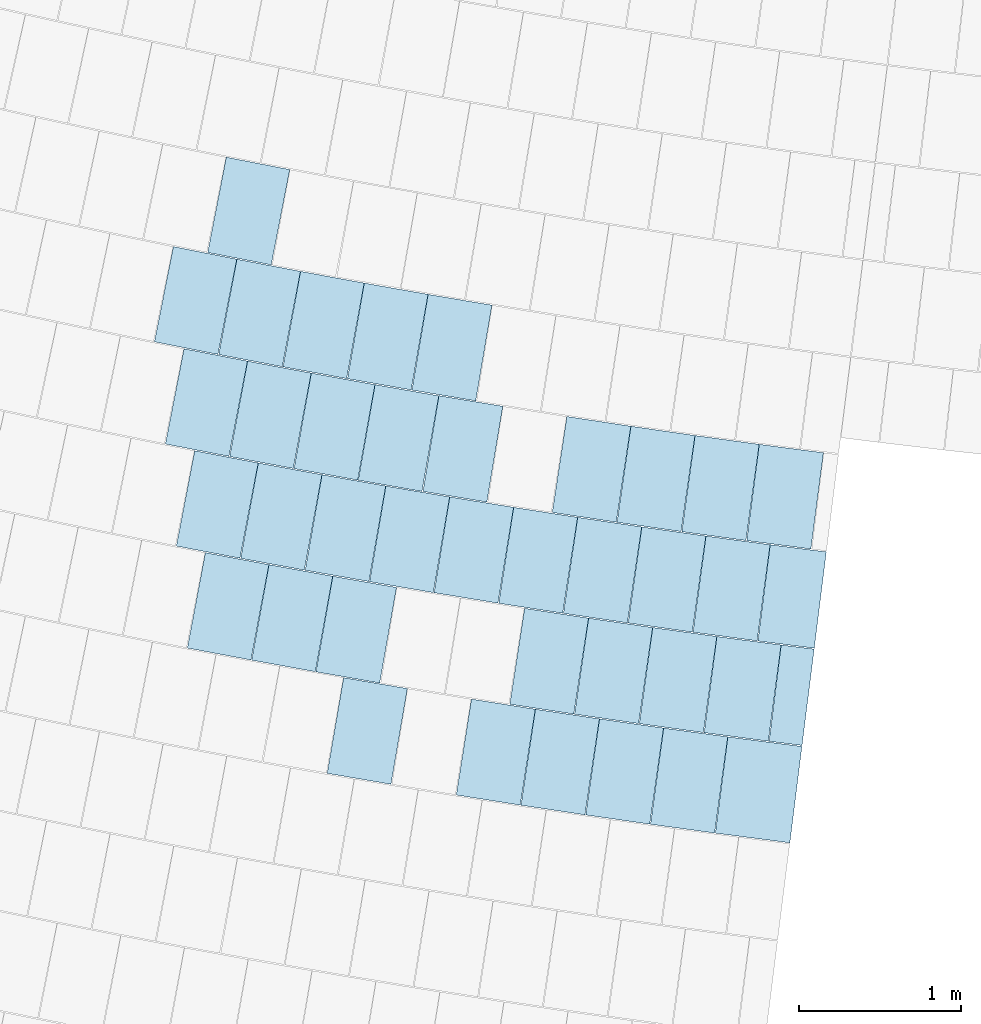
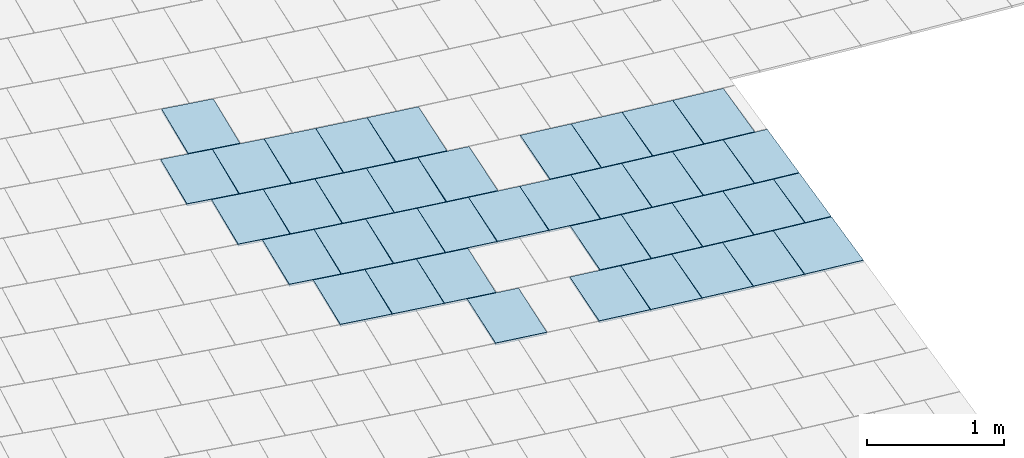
# One storey, part 35 of 438: 39 slabs.
"""IFC2X3 building model written with IfcOpenShell, lengths in millimetres."""

from ifc_helpers import new_model, entity, si_unit, converted_unit, derived_unit, direction, frame, frame_2d, origin, origin_2d_with_axis, place, context, subcontext, project, spatial, polyline, rectangle, outline, extrude, material, layer, layer_set, layer_usage, type_object, element, save


model = new_model("IFC2X3")

# Units and contexts
model_context = context("Model", 3, precision=0.01, world=origin(), true_north=direction((6.123031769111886e-17, 1.0)))
body_context = subcontext(model_context, "Body", "Model", "MODEL_VIEW")
ifc_project = project(units=[si_unit("LENGTHUNIT", "METRE", prefix="MILLI"), si_unit("AREAUNIT", "SQUARE_METRE"), si_unit("VOLUMEUNIT", "CUBIC_METRE"), converted_unit("PLANEANGLEUNIT", "DEGREE", entity("IfcRatioMeasure", 0.017453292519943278), si_unit("PLANEANGLEUNIT", "RADIAN"), dimensions=[0, 0, 0, 0, 0, 0, 0]), si_unit("MASSUNIT", "GRAM", prefix="KILO"), derived_unit("MASSDENSITYUNIT", [(si_unit("MASSUNIT", "GRAM", prefix="KILO"), 1), (si_unit("LENGTHUNIT", "METRE"), -3)]), derived_unit("MOMENTOFINERTIAUNIT", [(si_unit("LENGTHUNIT", "METRE"), 4)]), si_unit("TIMEUNIT", "SECOND"), si_unit("FREQUENCYUNIT", "HERTZ"), si_unit("THERMODYNAMICTEMPERATUREUNIT", "DEGREE_CELSIUS"), derived_unit("THERMALTRANSMITTANCEUNIT", [(si_unit("MASSUNIT", "GRAM", prefix="KILO"), 1), (si_unit("THERMODYNAMICTEMPERATUREUNIT", "KELVIN"), -1), (si_unit("TIMEUNIT", "SECOND"), -3)]), derived_unit("THERMALCONDUCTANCEUNIT", [(si_unit("MASSUNIT", "GRAM", prefix="KILO"), 1), (si_unit("LENGTHUNIT", "METRE"), 1), (si_unit("THERMODYNAMICTEMPERATUREUNIT", "KELVIN"), -1), (si_unit("TIMEUNIT", "SECOND"), -3)]), derived_unit("VOLUMETRICFLOWRATEUNIT", [(si_unit("LENGTHUNIT", "METRE"), 3), (si_unit("TIMEUNIT", "SECOND"), -1)]), derived_unit("MASSFLOWRATEUNIT", [(si_unit("MASSUNIT", "GRAM", prefix="KILO"), 1), (si_unit("TIMEUNIT", "SECOND"), -1)]), derived_unit("ROTATIONALFREQUENCYUNIT", [(si_unit("TIMEUNIT", "SECOND"), -1)]), si_unit("ELECTRICCURRENTUNIT", "AMPERE"), si_unit("ELECTRICVOLTAGEUNIT", "VOLT"), si_unit("POWERUNIT", "WATT"), converted_unit("FORCEUNIT", "KIP", entity("IfcRatioMeasure", 2.088543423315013e-05), si_unit("FORCEUNIT", "NEWTON"), dimensions=[1, 1, -2, 0, 0, 0, 0]), si_unit("ILLUMINANCEUNIT", "LUX"), si_unit("LUMINOUSFLUXUNIT", "LUMEN"), si_unit("LUMINOUSINTENSITYUNIT", "CANDELA"), derived_unit("USERDEFINED", [(si_unit("MASSUNIT", "GRAM", prefix="KILO"), -1), (si_unit("LENGTHUNIT", "METRE"), -2), (si_unit("TIMEUNIT", "SECOND"), 3), (si_unit("LUMINOUSFLUXUNIT", "LUMEN"), 1)]), derived_unit("USERDEFINED", [(si_unit("MASSUNIT", "GRAM", prefix="KILO"), 1), (si_unit("LENGTHUNIT", "METRE"), 3), (si_unit("TIMEUNIT", "SECOND"), -3), (si_unit("ELECTRICCURRENTUNIT", "AMPERE"), -2)]), derived_unit("USERDEFINED", [(si_unit("LENGTHUNIT", "METRE"), 2), (si_unit("TIMEUNIT", "SECOND"), -2)]), derived_unit("SOUNDPOWERUNIT", [(si_unit("MASSUNIT", "GRAM", prefix="KILO"), 1), (si_unit("LENGTHUNIT", "METRE"), 2), (si_unit("TIMEUNIT", "SECOND"), -3)]), derived_unit("SOUNDPRESSUREUNIT", [(si_unit("MASSUNIT", "GRAM", prefix="KILO"), 1), (si_unit("LENGTHUNIT", "METRE"), -1), (si_unit("TIMEUNIT", "SECOND"), -2)]), derived_unit("LINEARVELOCITYUNIT", [(si_unit("LENGTHUNIT", "METRE"), 1), (si_unit("TIMEUNIT", "SECOND"), -1)]), si_unit("PRESSUREUNIT", "PASCAL"), derived_unit("USERDEFINED", [(si_unit("LENGTHUNIT", "METRE"), -2), (si_unit("MASSUNIT", "GRAM", prefix="KILO"), 1), (si_unit("TIMEUNIT", "SECOND"), -2)]), derived_unit("LINEARFORCEUNIT", [(si_unit("MASSUNIT", "GRAM", prefix="KILO"), 1), (si_unit("LENGTHUNIT", "METRE"), 1), (si_unit("TIMEUNIT", "SECOND"), -2), (si_unit("LENGTHUNIT", "METRE"), -1)]), derived_unit("PLANARFORCEUNIT", [(si_unit("MASSUNIT", "GRAM", prefix="KILO"), 1), (si_unit("LENGTHUNIT", "METRE"), 1), (si_unit("TIMEUNIT", "SECOND"), -2), (si_unit("LENGTHUNIT", "METRE"), -2)]), derived_unit("SPECIFICHEATCAPACITYUNIT", [(si_unit("LENGTHUNIT", "METRE"), 2), (si_unit("TIMEUNIT", "SECOND"), -2), (si_unit("THERMODYNAMICTEMPERATUREUNIT", "KELVIN"), -1)]), derived_unit("VAPORPERMEABILITYUNIT", [(si_unit("TIMEUNIT", "SECOND"), 1), (si_unit("LENGTHUNIT", "METRE"), -1)]), derived_unit("DYNAMICVISCOSITYUNIT", [(si_unit("MASSUNIT", "GRAM", prefix="KILO"), 1), (si_unit("LENGTHUNIT", "METRE"), -1), (si_unit("TIMEUNIT", "SECOND"), -1)]), derived_unit("THERMALEXPANSIONCOEFFICIENTUNIT", [(si_unit("THERMODYNAMICTEMPERATUREUNIT", "KELVIN"), -1)])], contexts=[model_context])

# Site, building, storey
site_placement = place(None, frame((0.0, 0.0, 0.0), z_axis=(0.0, 0.0, 1.0), x_axis=(0.8191520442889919, 0.5735764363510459, 0.0)))
site = spatial("IfcSite", under=ifc_project, at=site_placement, Name="Default", CompositionType="ELEMENT")
building_placement = place(site_placement, origin())
building = spatial("IfcBuilding", under=site, at=building_placement, CompositionType="ELEMENT")
storey_placement = place(building_placement, origin())
storey = spatial("IfcBuildingStorey", under=building, at=storey_placement, Name="PLAN", CompositionType="ELEMENT", Elevation=0.0)

# Slabs
ifc_material = material(Name="Paint-01")
ifc_layer = layer(ifc_material, 20.00000000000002)
ifc_layer_set = layer_set([ifc_layer], Name="Floor:Slab-179:1000")
ifc_layer_usage = layer_usage(ifc_layer_set, "AXIS3", "POSITIVE", 0.0)
slab_type = type_object("IfcSlabType", Name="Floor:Slab-179:1000", PredefinedType="FLOOR", material=ifc_layer_set)
slab_1_placement = place(storey_placement, origin())
element("IfcSlab", 1, at=slab_1_placement, inside=storey, type_object=slab_type, material=ifc_layer_usage, Name="Floor:Slab-179:1000", ObjectType="Floor:Slab-179:1000", PredefinedType="FLOOR", context=body_context, shape_type="SweptSolid", body=[
    extrude(outline(polyline([(-299.999997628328, -200.00000294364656), (300.0, -200.00000294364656), (299.99999762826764, 200.00000294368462), (-300.0, 200.00000294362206), (-299.999997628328, -200.00000294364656)])), frame((-81471.55005230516, -107368.58079480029, 520.0), z_axis=(0.0, 0.0, -1.0), x_axis=(-0.722109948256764, -0.6917783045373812, 0.0)), (0.0, 0.0, 1.0), 20.000000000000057),
])
slab_2_placement = place(storey_placement, origin())
element("IfcSlab", 2, at=slab_2_placement, inside=storey, type_object=slab_type, material=ifc_layer_usage, Name="Floor:Slab-179:1000", ObjectType="Floor:Slab-179:1000", PredefinedType="FLOOR", context=body_context, shape_type="SweptSolid", body=[
    extrude(outline(polyline([(-299.99999762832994, -200.00000294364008), (300.0, -200.00000294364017), (299.99999762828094, 200.0000029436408), (-300.0, 200.00000294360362), (-299.99999762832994, -200.00000294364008)])), frame((-81192.35322029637, -107657.96837591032, 520.0), z_axis=(0.0, 0.0, -1.0), x_axis=(-0.7172104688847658, -0.6968566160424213, 0.0)), (0.0, 0.0, 1.0), 20.000000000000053),
])
slab_3_placement = place(storey_placement, origin())
element("IfcSlab", 3, at=slab_3_placement, inside=storey, type_object=slab_type, material=ifc_layer_usage, Name="Floor:Slab-179:1000", ObjectType="Floor:Slab-179:1000", PredefinedType="FLOOR", context=body_context, shape_type="SweptSolid", body=[
    extrude(outline(polyline([(-299.9999976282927, -200.0000029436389), (300.0, -200.00000294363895), (299.9999976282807, 200.00000294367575), (-300.0, 200.0000029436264), (-299.9999976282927, -200.0000029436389)])), frame((-80911.12128966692, -107945.37861285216, 520.0), z_axis=(0.0, 0.0, -1.0), x_axis=(-0.7122752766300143, -0.7019002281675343, 0.0)), (0.0, 0.0, 1.0), 19.99999999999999),
])
slab_4_placement = place(storey_placement, origin())
element("IfcSlab", 4, at=slab_4_placement, inside=storey, type_object=slab_type, material=ifc_layer_usage, Name="Floor:Slab-179:1000", ObjectType="Floor:Slab-179:1000", PredefinedType="FLOOR", context=body_context, shape_type="SweptSolid", body=[
    extrude(rectangle(XDim=599.9999738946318, YDim=399.99999022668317, at=frame_2d((0.0, -1.2249756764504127e-11), x_axis=(1.0, 0.0))), frame((-80627.76933150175, -108230.81697989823, 520.0), z_axis=(0.0, 0.0, -1.0), x_axis=(-0.7071067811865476, -0.7071067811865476, 0.0)), (0.0, 0.0, 1.0), 19.999999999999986),
])
slab_5_placement = place(storey_placement, origin())
element("IfcSlab", 5, at=slab_5_placement, inside=storey, type_object=slab_type, material=ifc_layer_usage, Name="Floor:Slab-179:1000", ObjectType="Floor:Slab-179:1000", PredefinedType="FLOOR", context=body_context, shape_type="SweptSolid", body=[
    extrude(outline(polyline([(-299.99999762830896, -200.00000294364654), (300.0, -200.00000294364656), (299.99999762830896, 200.00000294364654), (-300.0, 200.00000294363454), (-299.99999762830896, -200.00000294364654)])), frame((-80342.60824800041, -108514.20990801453, 520.0), z_axis=(0.0, 0.0, -1.0), x_axis=(-0.7022987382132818, -0.7118823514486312, 0.0)), (0.0, 0.0, 1.0), 20.000000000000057),
])
slab_6_placement = place(storey_placement, origin())
element("IfcSlab", 6, at=slab_6_placement, inside=storey, type_object=slab_type, material=ifc_layer_usage, Name="Floor:Slab-179:1000", ObjectType="Floor:Slab-179:1000", PredefinedType="FLOOR", context=body_context, shape_type="SweptSolid", body=[
    extrude(outline(polyline([(-299.9999976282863, -200.00000294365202), (300.0, -200.00000294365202), (299.9999976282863, 200.00000294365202), (-300.0, 200.00000294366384), (-299.9999976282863, -200.00000294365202)])), frame((-81497.91692118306, -108211.24282018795, 520.0), z_axis=(0.0, 0.0, -1.0), x_axis=(-0.7149818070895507, -0.6991430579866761, 0.0)), (0.0, 0.0, 1.0), 20.000000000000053),
])
slab_7_placement = place(storey_placement, origin())
element("IfcSlab", 7, at=slab_7_placement, inside=storey, type_object=slab_type, material=ifc_layer_usage, Name="Floor:Slab-179:1000", ObjectType="Floor:Slab-179:1000", PredefinedType="FLOOR", context=body_context, shape_type="SweptSolid", body=[
    extrude(outline(polyline([(-299.99999762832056, -200.00000294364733), (300.0, -200.0000029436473), (299.99999762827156, 200.0000029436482), (-300.0, 200.0000029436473), (-299.99999762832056, -200.00000294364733)])), frame((-81778.03153239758, -107922.77460456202, 520.0), z_axis=(0.0, 0.0, -1.0), x_axis=(-0.719845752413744, -0.6941340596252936, 0.0)), (0.0, 0.0, 1.0), 19.99999999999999),
])
slab_8_placement = place(storey_placement, origin())
element("IfcSlab", 8, at=slab_8_placement, inside=storey, type_object=slab_type, material=ifc_layer_usage, Name="Floor:Slab-179:1000", ObjectType="Floor:Slab-179:1000", PredefinedType="FLOOR", context=body_context, shape_type="SweptSolid", body=[
    extrude(outline(polyline([(-299.999997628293, -200.00000294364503), (300.0, -200.00000294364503), (299.9999976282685, 200.00000294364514), (-300.0, 200.00000294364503), (-299.999997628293, -200.00000294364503)])), frame((-81215.79507077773, -108497.74826231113, 520.0), z_axis=(0.0, 0.0, -1.0), x_axis=(-0.7100830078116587, -0.7041179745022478, 0.0)), (0.0, 0.0, 1.0), 20.000000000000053),
])
slab_9_placement = place(storey_placement, origin())
element("IfcSlab", 9, at=slab_9_placement, inside=storey, type_object=slab_type, material=ifc_layer_usage, Name="Floor:Slab-179:1000", ObjectType="Floor:Slab-179:1000", PredefinedType="FLOOR", context=body_context, shape_type="SweptSolid", body=[
    extrude(outline(polyline([(-299.999997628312, -200.00000294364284), (300.0, -200.00000294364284), (299.9999976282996, 200.00000294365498), (-300.0, 200.00000294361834), (-299.999997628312, -200.00000294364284)])), frame((-80645.5847611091, -109064.81505610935, 520.0), z_axis=(0.0, 0.0, -1.0), x_axis=(-0.700181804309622, -0.7139645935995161, 0.0)), (0.0, 0.0, 1.0), 20.000000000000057),
])
slab_10_placement = place(storey_placement, origin())
element("IfcSlab", 10, at=slab_10_placement, inside=storey, type_object=slab_type, material=ifc_layer_usage, Name="Floor:Slab-179:1000", ObjectType="Floor:Slab-179:1000", PredefinedType="FLOOR", context=body_context, shape_type="SweptSolid", body=[
    extrude(outline(polyline([(-299.9999976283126, -200.00000294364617), (300.0, -200.00000294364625), (299.99999762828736, 200.00000294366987), (-300.0, 200.000002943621), (-299.9999976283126, -200.00000294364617)])), frame((-79775.5619688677, -109900.3484270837, 520.0), z_axis=(0.0, 0.0, -1.0), x_axis=(-0.6850746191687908, -0.7284729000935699, 0.0)), (0.0, 0.0, 1.0), 20.000000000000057),
])
slab_11_placement = place(storey_placement, origin())
element("IfcSlab", 11, at=slab_11_placement, inside=storey, type_object=slab_type, material=ifc_layer_usage, Name="Floor:Slab-179:1000", ObjectType="Floor:Slab-179:1000", PredefinedType="FLOOR", context=body_context, shape_type="SweptSolid", body=[
    extrude(rectangle(XDim=599.9977053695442, YDim=399.99847788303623, at=origin_2d_with_axis()), frame((-80932.65697663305, -108782.08151494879, 520.0), z_axis=(0.0, 0.0, -1.0), x_axis=(-0.7071067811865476, -0.7071067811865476, 0.0)), (0.0, 0.0, 1.0), 19.999999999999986),
])
slab_12_placement = place(storey_placement, origin())
element("IfcSlab", 12, at=slab_12_placement, inside=storey, type_object=slab_type, material=ifc_layer_usage, Name="Floor:Slab-179:1000", ObjectType="Floor:Slab-179:1000", PredefinedType="FLOOR", context=body_context, shape_type="SweptSolid", body=[
    extrude(outline(polyline([(-299.9999976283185, -200.0000029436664), (300.0, -200.0000029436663), (299.99999762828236, 200.00000294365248), (-300.0, 200.00000294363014), (-299.9999976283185, -200.0000029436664)])), frame((-79185.90682188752, -110447.16773318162, 520.0), z_axis=(0.0, 0.0, -1.0), x_axis=(-0.6748357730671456, -0.7379679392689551, 0.0)), (0.0, 0.0, 1.0), 20.000000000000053),
])
slab_13_placement = place(storey_placement, origin())
element("IfcSlab", 13, at=slab_13_placement, inside=storey, type_object=slab_type, material=ifc_layer_usage, Name="Floor:Slab-179:1000", ObjectType="Floor:Slab-179:1000", PredefinedType="FLOOR", context=body_context, shape_type="SweptSolid", body=[
    extrude(outline(polyline([(-299.99999762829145, -200.00000294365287), (300.0, -200.00000294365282), (299.9999976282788, 200.00000294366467), (-300.0, 200.00000294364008), (-299.99999762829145, -200.00000294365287)])), frame((-79481.68887140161, -110174.78732634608, 520.0), z_axis=(0.0, 0.0, -1.0), x_axis=(-0.6799717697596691, -0.7332382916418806, 0.0)), (0.0, 0.0, 1.0), 20.000000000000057),
])
slab_14_placement = place(storey_placement, origin())
element("IfcSlab", 14, at=slab_14_placement, inside=storey, type_object=slab_type, material=ifc_layer_usage, Name="Floor:Slab-179:1000", ObjectType="Floor:Slab-179:1000", PredefinedType="FLOOR", context=body_context, shape_type="SweptSolid", body=[
    extrude(outline(polyline([(-299.99999762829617, -200.00000294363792), (300.0, -200.00000294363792), (299.9999976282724, 200.00000294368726), (-300.0, 200.00000294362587), (-299.99999762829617, -200.00000294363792)])), frame((-82084.09386153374, -108476.53583649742, 520.0), z_axis=(0.0, 0.0, -1.0), x_axis=(-0.7176214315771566, -0.6964334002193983, 0.0)), (0.0, 0.0, 1.0), 20.000000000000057),
])
slab_15_placement = place(storey_placement, origin())
element("IfcSlab", 15, at=slab_15_placement, inside=storey, type_object=slab_type, material=ifc_layer_usage, Name="Floor:Slab-179:1000", ObjectType="Floor:Slab-179:1000", PredefinedType="FLOOR", context=body_context, shape_type="SweptSolid", body=[
    extrude(outline(polyline([(-299.54872144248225, -175.1399890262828), (300.4532765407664, -175.1399890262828), (299.54672085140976, 175.91469806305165), (-300.45127594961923, 174.36527998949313), (-299.54872144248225, -175.1399890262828)])), frame((-79503.25318689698, -110976.6195005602, 520.0), z_axis=(0.0, 0.0, -1.0), x_axis=(-0.6710449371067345, -0.7414166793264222, 0.0)), (0.0, 0.0, 1.0), 20.000000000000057),
])
slab_16_placement = place(storey_placement, origin())
element("IfcSlab", 16, at=slab_16_placement, inside=storey, type_object=slab_type, material=ifc_layer_usage, Name="Floor:Slab-179:1000", ObjectType="Floor:Slab-179:1000", PredefinedType="FLOOR", context=body_context, shape_type="SweptSolid", body=[
    extrude(rectangle(XDim=599.9995904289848, YDim=399.9997345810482, at=frame_2d((1.2249756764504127e-11, 1.2249756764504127e-11), x_axis=(1.0, 0.0))), frame((-81519.68144984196, -109049.80032574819, 520.0), z_axis=(0.0, 0.0, -1.0), x_axis=(-0.7071067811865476, -0.7071067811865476, 0.0)), (0.0, 0.0, 1.0), 19.999999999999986),
])
slab_17_placement = place(storey_placement, origin())
element("IfcSlab", 17, at=slab_17_placement, inside=storey, type_object=slab_type, material=ifc_layer_usage, Name="Floor:Slab-179:1000", ObjectType="Floor:Slab-179:1000", PredefinedType="FLOOR", context=body_context, shape_type="SweptSolid", body=[
    extrude(outline(polyline([(-299.9999976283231, -200.00000294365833), (300.0, -200.00000294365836), (299.99999762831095, 200.0000029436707), (-300.0, 200.00000294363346), (-299.9999976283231, -200.00000294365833)])), frame((-81803.08358468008, -108764.10108174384, 520.0), z_axis=(0.0, 0.0, -1.0), x_axis=(-0.7127926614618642, -0.7013748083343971, 0.0)), (0.0, 0.0, 1.0), 19.99999999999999),
])
slab_18_placement = place(storey_placement, origin())
element("IfcSlab", 18, at=slab_18_placement, inside=storey, type_object=slab_type, material=ifc_layer_usage, Name="Floor:Slab-179:1000", ObjectType="Floor:Slab-179:1000", PredefinedType="FLOOR", context=body_context, shape_type="SweptSolid", body=[
    extrude(outline(polyline([(-299.9999976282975, -200.00000294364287), (300.0, -200.00000294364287), (299.99999762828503, 200.00000294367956), (-300.0, 200.0000029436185), (-299.9999976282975, -200.00000294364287)])), frame((-81235.1363150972, -109333.37286750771, 520.0), z_axis=(0.0, 0.0, -1.0), x_axis=(-0.7030332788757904, -0.7111569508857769, 0.0)), (0.0, 0.0, 1.0), 20.000000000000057),
])
slab_19_placement = place(storey_placement, origin())
element("IfcSlab", 19, at=slab_19_placement, inside=storey, type_object=slab_type, material=ifc_layer_usage, Name="Floor:Slab-179:1000", ObjectType="Floor:Slab-179:1000", PredefinedType="FLOOR", context=body_context, shape_type="SweptSolid", body=[
    extrude(outline(polyline([(-299.9999976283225, -200.00000294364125), (300.0, -200.00000294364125), (299.99999762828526, 200.00000294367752), (-300.0, 200.00000294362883), (-299.9999976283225, -200.00000294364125)])), frame((-80948.22643306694, -109615.05223410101, 520.0), z_axis=(0.0, 0.0, -1.0), x_axis=(-0.6981031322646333, -0.7159972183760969, 0.0)), (0.0, 0.0, 1.0), 20.000000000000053),
])
slab_20_placement = place(storey_placement, origin())
element("IfcSlab", 20, at=slab_20_placement, inside=storey, type_object=slab_type, material=ifc_layer_usage, Name="Floor:Slab-179:1000", ObjectType="Floor:Slab-179:1000", PredefinedType="FLOOR", context=body_context, shape_type="SweptSolid", body=[
    extrude(outline(polyline([(-299.9999976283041, -200.00000294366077), (300.0, -200.0000029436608), (299.9999976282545, 200.000002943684), (-300.0, 200.0000029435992), (-299.9999976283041, -200.00000294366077)])), frame((-80368.60265142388, -110172.43068618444, 520.0), z_axis=(0.0, 0.0, -1.0), x_axis=(-0.6881431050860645, -0.7255749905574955, 0.0)), (0.0, 0.0, 1.0), 19.99999999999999),
])
slab_21_placement = place(storey_placement, origin())
element("IfcSlab", 21, at=slab_21_placement, inside=storey, type_object=slab_type, material=ifc_layer_usage, Name="Floor:Slab-179:1000", ObjectType="Floor:Slab-179:1000", PredefinedType="FLOOR", context=body_context, shape_type="SweptSolid", body=[
    extrude(outline(polyline([(-299.9999976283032, -200.0000029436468), (300.0, -200.00000294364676), (299.9999976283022, 200.00000294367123), (-300.0, 200.0000029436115), (-299.9999976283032, -200.0000029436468)])), frame((-79781.33255909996, -110721.74690272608, 520.0), z_axis=(0.0, 0.0, -1.0), x_axis=(-0.678051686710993, -0.7350142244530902, 0.0)), (0.0, 0.0, 1.0), 20.000000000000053),
])
slab_22_placement = place(storey_placement, origin())
element("IfcSlab", 22, at=slab_22_placement, inside=storey, type_object=slab_type, material=ifc_layer_usage, Name="Floor:Slab-179:1000", ObjectType="Floor:Slab-179:1000", PredefinedType="FLOOR", context=body_context, shape_type="SweptSolid", body=[
    extrude(outline(polyline([(-299.9999976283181, -200.00000294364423), (300.0, -200.0000029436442), (299.9999976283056, 200.00000294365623), (-300.0, 200.00000294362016), (-299.9999976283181, -200.00000294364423)])), frame((-80659.37728248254, -109894.74262395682, 520.0), z_axis=(0.0, 0.0, -1.0), x_axis=(-0.6931396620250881, -0.7208033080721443, 0.0)), (0.0, 0.0, 1.0), 19.99999999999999),
])
slab_23_placement = place(storey_placement, origin())
element("IfcSlab", 23, at=slab_23_placement, inside=storey, type_object=slab_type, material=ifc_layer_usage, Name="Floor:Slab-179:1000", ObjectType="Floor:Slab-179:1000", PredefinedType="FLOOR", context=body_context, shape_type="SweptSolid", body=[
    extrude(outline(polyline([(-299.99999762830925, -200.0000029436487), (300.0, -200.0000029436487), (299.99999762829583, 200.00000294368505), (-300.0, 200.00000294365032), (-299.99999762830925, -200.0000029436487)])), frame((-80075.9164198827, -110448.10316547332, 520.0), z_axis=(0.0, 0.0, -1.0), x_axis=(-0.6831136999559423, -0.7303120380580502, 0.0)), (0.0, 0.0, 1.0), 19.99999999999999),
])
slab_24_placement = place(storey_placement, origin())
element("IfcSlab", 24, at=slab_24_placement, inside=storey, type_object=slab_type, material=ifc_layer_usage, Name="Floor:Slab-179:1000", ObjectType="Floor:Slab-179:1000", PredefinedType="FLOOR", context=body_context, shape_type="SweptSolid", body=[
    extrude(rectangle(XDim=599.9990003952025, YDim=399.9993394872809, at=frame_2d((1.2249756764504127e-11, 0.0), x_axis=(1.0, 0.0))), frame((-81824.67400609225, -109601.16998090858, 520.0), z_axis=(0.0, 0.0, -1.0), x_axis=(-0.7071067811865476, -0.7071067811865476, 0.0)), (0.0, 0.0, 1.0), 19.999999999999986),
])
slab_25_placement = place(storey_placement, origin())
element("IfcSlab", 25, at=slab_25_placement, inside=storey, type_object=slab_type, material=ifc_layer_usage, Name="Floor:Slab-179:1000", ObjectType="Floor:Slab-179:1000", PredefinedType="FLOOR", context=body_context, shape_type="SweptSolid", body=[
    extrude(outline(polyline([(-299.9999989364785, -200.00000294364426), (300.0000010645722, -200.0000029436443), (299.9999989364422, 200.00000294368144), (-300.0000010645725, 200.00000294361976), (-299.9999989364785, -200.00000294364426)])), frame((-82389.75141136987, -109029.87663669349, 520.0), z_axis=(0.0, 0.0, -1.0), x_axis=(-0.7154359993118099, -0.6986782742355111, 0.0)), (0.0, 0.0, 1.0), 20.000000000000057),
])
slab_26_placement = place(storey_placement, origin())
element("IfcSlab", 26, at=slab_26_placement, inside=storey, type_object=slab_type, material=ifc_layer_usage, Name="Floor:Slab-179:1000", ObjectType="Floor:Slab-179:1000", PredefinedType="FLOOR", context=body_context, shape_type="SweptSolid", body=[
    extrude(outline(polyline([(-299.9999989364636, -200.0000029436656), (300.00000106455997, -200.00000294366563), (299.99999893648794, 200.00000294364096), (-300.0000010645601, 200.0000029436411), (-299.9999989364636, -200.0000029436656)])), frame((-82107.86681471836, -109316.55489363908, 520.0), z_axis=(0.0, 0.0, -1.0), x_axis=(-0.7106420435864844, -0.7035537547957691, 0.0)), (0.0, 0.0, 1.0), 20.000000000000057),
])
slab_27_placement = place(storey_placement, origin())
element("IfcSlab", 27, at=slab_27_placement, inside=storey, type_object=slab_type, material=ifc_layer_usage, Name="Floor:Slab-179:1000", ObjectType="Floor:Slab-179:1000", PredefinedType="FLOOR", context=body_context, shape_type="SweptSolid", body=[
    extrude(outline(polyline([(-299.99999893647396, -200.00000294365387), (300.0000010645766, -200.0000029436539), (299.99999893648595, 200.0000029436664), (-300.0000010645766, 200.0000029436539), (-299.99999893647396, -200.00000294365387)])), frame((-80960.9257725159, -110443.79430292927, 520.0), z_axis=(0.0, 0.0, -1.0), x_axis=(-0.6911362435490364, -0.7227244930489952, 0.0)), (0.0, 0.0, 1.0), 20.000000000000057),
])
slab_28_placement = place(storey_placement, origin())
element("IfcSlab", 28, at=slab_28_placement, inside=storey, type_object=slab_type, material=ifc_layer_usage, Name="Floor:Slab-179:1000", ObjectType="Floor:Slab-179:1000", PredefinedType="FLOOR", context=body_context, shape_type="SweptSolid", body=[
    extrude(outline(polyline([(-299.99999893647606, -200.00000294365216), (300.0000010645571, -200.00000294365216), (299.9999989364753, 200.00000294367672), (-300.00000106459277, 200.0000029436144), (-299.99999893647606, -200.00000294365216)])), frame((-80669.4068760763, -110720.66987399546, 520.0), z_axis=(0.0, 0.0, -1.0), x_axis=(-0.6861784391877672, -0.7274332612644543, 0.0)), (0.0, 0.0, 1.0), 20.000000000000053),
])
slab_29_placement = place(storey_placement, origin())
element("IfcSlab", 29, at=slab_29_placement, inside=storey, type_object=slab_type, material=ifc_layer_usage, Name="Floor:Slab-179:1000", ObjectType="Floor:Slab-179:1000", PredefinedType="FLOOR", context=body_context, shape_type="SweptSolid", body=[
    extrude(outline(polyline([(-299.990504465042, -102.71802803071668), (300.0094981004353, -102.71802803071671), (299.9905019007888, 102.74576299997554), (-300.0094955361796, 102.69029306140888), (-299.990504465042, -102.71802803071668)])), frame((-79855.70760880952, -111473.9595886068, 520.0), z_axis=(0.0, 0.0, -1.0), x_axis=(-0.6710449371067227, -0.7414166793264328, 0.0)), (0.0, 0.0, 1.0), 19.999999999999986),
])
slab_30_placement = place(storey_placement, origin())
element("IfcSlab", 30, at=slab_30_placement, inside=storey, type_object=slab_type, material=ifc_layer_usage, Name="Floor:Slab-179:1000", ObjectType="Floor:Slab-179:1000", PredefinedType="FLOOR", context=body_context, shape_type="SweptSolid", body=[
    extrude(outline(polyline([(-299.99999893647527, -200.00000294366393), (300.0000010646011, -200.00000294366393), (299.99999893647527, 200.00000294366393), (-300.0000010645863, 200.00000294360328), (-299.99999893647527, -200.00000294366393)])), frame((-80080.72381175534, -111268.40894318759, 520.0), z_axis=(0.0, 0.0, -1.0), x_axis=(-0.6761668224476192, -0.7367485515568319, 0.0)), (0.0, 0.0, 1.0), 20.000000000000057),
])
slab_31_placement = place(storey_placement, origin())
element("IfcSlab", 31, at=slab_31_placement, inside=storey, type_object=slab_type, material=ifc_layer_usage, Name="Floor:Slab-179:1000", ObjectType="Floor:Slab-179:1000", PredefinedType="FLOOR", context=body_context, shape_type="SweptSolid", body=[
    extrude(outline(polyline([(-299.999998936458, -200.00000294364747), (300.00000106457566, -200.0000029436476), (299.9999989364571, 200.00000294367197), (-300.0000010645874, 200.00000294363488), (-299.999998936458, -200.00000294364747)])), frame((-80376.0016500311, -110995.54570444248, 520.0), z_axis=(0.0, 0.0, -1.0), x_axis=(-0.6811885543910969, -0.7321080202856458, 0.0)), (0.0, 0.0, 1.0), 19.99999999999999),
])
slab_32_placement = place(storey_placement, origin())
element("IfcSlab", 32, at=slab_32_placement, inside=storey, type_object=slab_type, material=ifc_layer_usage, Name="Floor:Slab-179:1000", ObjectType="Floor:Slab-179:1000", PredefinedType="FLOOR", context=body_context, shape_type="SweptSolid", body=[
    extrude(outline(polyline([(-299.99999762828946, -200.00000294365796), (300.0, -200.0000029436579), (299.99999762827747, 200.0000029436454), (-300.0, 200.00000294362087), (-299.99999762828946, -200.00000294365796)])), frame((-80067.51178855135, -109623.86441375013, 520.0), z_axis=(0.0, 0.0, -1.0), x_axis=(-0.6901440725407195, -0.7236719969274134, 0.0)), (0.0, 0.0, 1.0), 19.99999999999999),
])
slab_33_placement = place(storey_placement, origin())
element("IfcSlab", 33, at=slab_33_placement, inside=storey, type_object=slab_type, material=ifc_layer_usage, Name="Floor:Slab-179:1000", ObjectType="Floor:Slab-179:1000", PredefinedType="FLOOR", context=body_context, shape_type="SweptSolid", body=[
    extrude(outline(polyline([(-299.99999762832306, -200.00000294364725), (300.0, -200.0000029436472), (299.999997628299, 200.00000294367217), (-300.0, 200.0000029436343), (-299.99999762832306, -200.00000294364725)])), frame((-80886.37823815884, -107104.26556813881, 520.0), z_axis=(0.0, 0.0, -1.0), x_axis=(-0.7194796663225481, -0.6945135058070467, 0.0)), (0.0, 0.0, 1.0), 20.000000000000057),
])
slab_34_placement = place(storey_placement, origin())
element("IfcSlab", 34, at=slab_34_placement, inside=storey, type_object=slab_type, material=ifc_layer_usage, Name="Floor:Slab-179:1000", ObjectType="Floor:Slab-179:1000", PredefinedType="FLOOR", context=body_context, shape_type="SweptSolid", body=[
    extrude(outline(polyline([(-299.9999976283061, -200.00000294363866), (300.0, -200.00000294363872), (299.99999762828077, 200.00000294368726), (-300.0, 200.00000294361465), (-299.9999976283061, -200.00000294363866)])), frame((-81552.55052610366, -110714.46426205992, 520.0), z_axis=(0.0, 0.0, -1.0), x_axis=(-0.6940566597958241, -0.7199203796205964, 0.0)), (0.0, 0.0, 1.0), 20.000000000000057),
])
slab_35_placement = place(storey_placement, origin())
element("IfcSlab", 35, at=slab_35_placement, inside=storey, type_object=slab_type, material=ifc_layer_usage, Name="Floor:Slab-179:1000", ObjectType="Floor:Slab-179:1000", PredefinedType="FLOOR", context=body_context, shape_type="SweptSolid", body=[
    extrude(outline(polyline([(-299.99999762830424, -200.00000294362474), (300.0, -200.00000294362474), (299.9999976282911, 200.00000294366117), (-300.0, 200.00000294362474), (-299.99999762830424, -200.00000294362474)])), frame((-81262.17986099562, -110992.51350423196, 520.0), z_axis=(0.0, 0.0, -1.0), x_axis=(-0.6891686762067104, -0.7246009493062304, 0.0)), (0.0, 0.0, 1.0), 20.000000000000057),
])
slab_36_placement = place(storey_placement, origin())
element("IfcSlab", 36, at=slab_36_placement, inside=storey, type_object=slab_type, material=ifc_layer_usage, Name="Floor:Slab-179:1000", ObjectType="Floor:Slab-179:1000", PredefinedType="FLOOR", context=body_context, shape_type="SweptSolid", body=[
    extrude(outline(polyline([(-299.99999762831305, -200.0000029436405), (300.0, -200.0000029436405), (299.99999762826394, 200.0000029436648), (-300.0, 200.00000294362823), (-299.99999762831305, -200.0000029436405)])), frame((-82127.61356754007, -110152.50241925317, 520.0), z_axis=(0.0, 0.0, -1.0), x_axis=(-0.703737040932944, -0.710460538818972, 0.0)), (0.0, 0.0, 1.0), 20.000000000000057),
])
slab_37_placement = place(storey_placement, origin())
element("IfcSlab", 37, at=slab_37_placement, inside=storey, type_object=slab_type, material=ifc_layer_usage, Name="Floor:Slab-179:1000", ObjectType="Floor:Slab-179:1000", PredefinedType="FLOOR", context=body_context, shape_type="SweptSolid", body=[
    extrude(outline(polyline([(-299.9999976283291, -200.0000029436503), (300.0, -200.00000294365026), (299.9999976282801, 200.00000294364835), (-300.0, 200.0000029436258), (-299.9999976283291, -200.0000029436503)])), frame((-80675.82673644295, -111542.68495725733, 520.0), z_axis=(0.0, 0.0, -1.0), x_axis=(-0.6792982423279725, -0.7338623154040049, 0.0)), (0.0, 0.0, 1.0), 20.000000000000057),
])
slab_38_placement = place(storey_placement, origin())
element("IfcSlab", 38, at=slab_38_placement, inside=storey, type_object=slab_type, material=ifc_layer_usage, Name="Floor:Slab-179:1000", ObjectType="Floor:Slab-179:1000", PredefinedType="FLOOR", context=body_context, shape_type="SweptSolid", body=[
    extrude(outline(polyline([(-298.98025087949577, -231.31626078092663), (301.0256103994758, -231.31626078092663), (298.97438702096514, 232.6425858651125), (-301.01974654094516, 229.98993569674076), (-298.98025087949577, -231.31626078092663)])), frame((-80356.74420115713, -111835.90055610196, 520.0), z_axis=(0.0, 0.0, -1.0), x_axis=(-0.6710449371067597, -0.7414166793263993, 0.0)), (0.0, 0.0, 1.0), 20.000000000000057),
])
slab_39_placement = place(storey_placement, origin())
element("IfcSlab", 39, at=slab_39_placement, inside=storey, type_object=slab_type, material=ifc_layer_usage, Name="Floor:Slab-179:1000", ObjectType="Floor:Slab-179:1000", PredefinedType="FLOOR", context=body_context, shape_type="SweptSolid", body=[
    extrude(outline(polyline([(-299.9999976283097, -200.00000294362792), (300.0, -200.0000029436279), (299.99999762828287, 200.0000029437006), (-300.0, 200.00000294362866), (-299.9999976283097, -200.00000294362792)])), frame((-80969.9341361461, -111268.59128409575, 520.0), z_axis=(0.0, 0.0, -1.0), x_axis=(-0.684249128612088, -0.7292483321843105, 0.0)), (0.0, 0.0, 1.0), 20.000000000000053),
])

save(model, "model.ifc")
